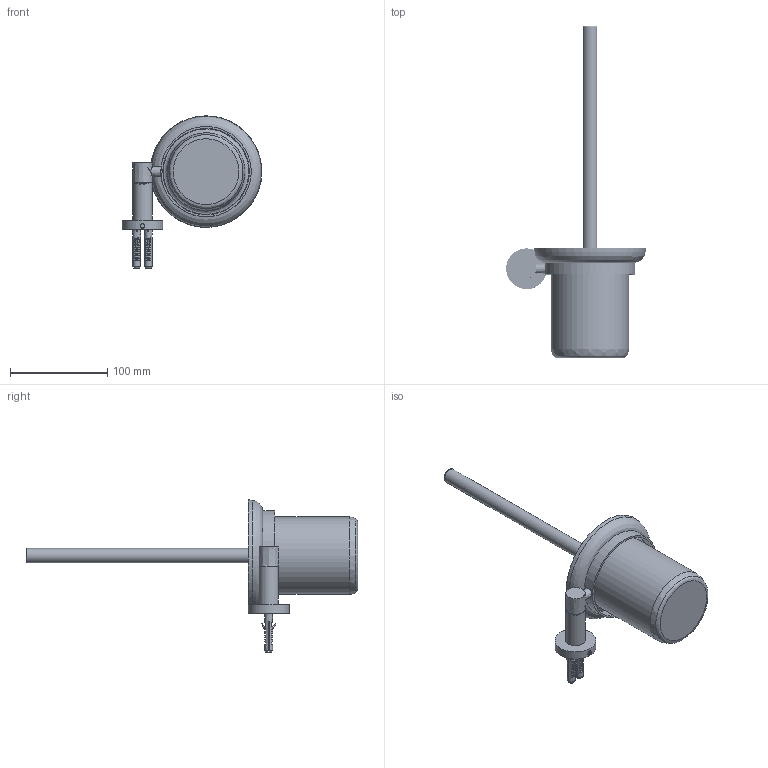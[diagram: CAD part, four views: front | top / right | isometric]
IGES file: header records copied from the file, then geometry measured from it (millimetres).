
Global section: file name: b1940e89-31d4-42f6-a725-f88925a66fa3; native system: unknown; preprocessor: unknown; author: unknown; organization: unknown; date: 20200108.122050; units: millimetre
Bounding box: 144 x 342.1 x 157 mm (x, y, z)
Volume: 286915.6 mm3; surface area: 169098.1 mm2
Topology: 15 solids, 15 shells, 857 faces, 2381 edges, 1663 vertices
Faces by surface type: bspline 857
